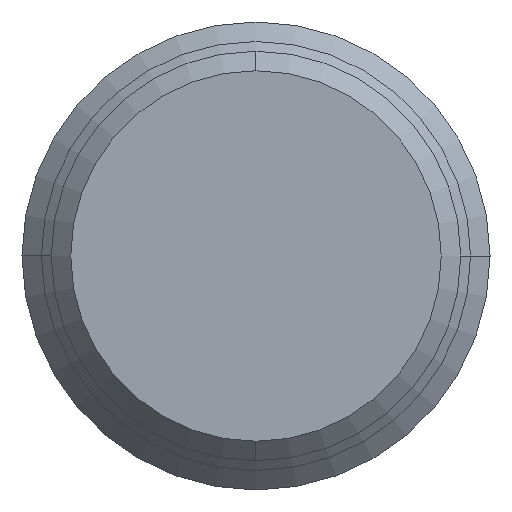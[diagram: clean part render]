
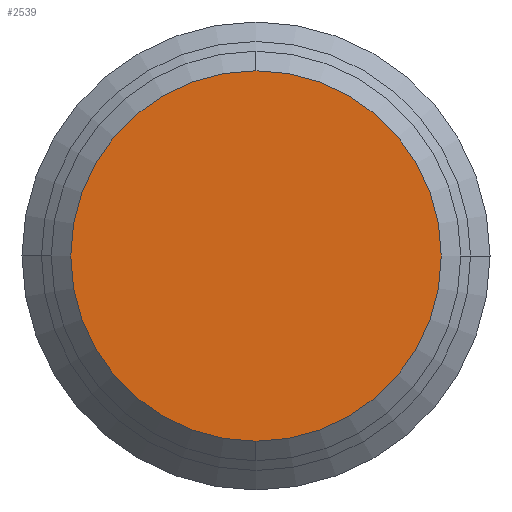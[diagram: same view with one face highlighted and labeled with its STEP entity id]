
A CAD part, left-side view. The second image highlights one B-rep face of the part: STEP entity #2539.
In plain terms, the highlighted planar face has unit normal (-1, 0, 0).
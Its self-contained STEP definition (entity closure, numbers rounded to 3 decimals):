
#428=CARTESIAN_POINT('',(-1.,0.,0.));
#429=DIRECTION('',(1.,0.,0.));
#430=DIRECTION('',(0.,0.,-1.));
#431=AXIS2_PLACEMENT_3D('',#428,#429,#430);
#436=CARTESIAN_POINT('',(-1.,0.,0.));
#437=DIRECTION('',(1.,0.,0.));
#438=DIRECTION('',(0.,0.,1.));
#439=AXIS2_PLACEMENT_3D('',#436,#437,#438);
#1770=CARTESIAN_POINT('',(-1.,0.,-4.75));
#1771=VERTEX_POINT('',#1770);
#1772=CARTESIAN_POINT('',(-1.,0.,4.75));
#1773=VERTEX_POINT('',#1772);
#2530=CARTESIAN_POINT('',(-1.,0.,0.));
#2531=DIRECTION('',(1.,0.,0.));
#2532=DIRECTION('',(0.,0.,1.));
#2533=AXIS2_PLACEMENT_3D('',#2530,#2531,#2532);
#2534=PLANE('',#2533);
#2535=ORIENTED_EDGE('',*,*,#2496,.T.);
#2536=ORIENTED_EDGE('',*,*,#2517,.T.);
#2537=EDGE_LOOP('',(#2535,#2536));
#2538=FACE_OUTER_BOUND('',#2537,.F.);
#432=CIRCLE('',#431,4.75);
#440=CIRCLE('',#439,4.75);
#2496=EDGE_CURVE('',#1771,#1773,#432,.T.);
#2517=EDGE_CURVE('',#1773,#1771,#440,.T.);
#2539=ADVANCED_FACE('',(#2538),#2534,.F.);
